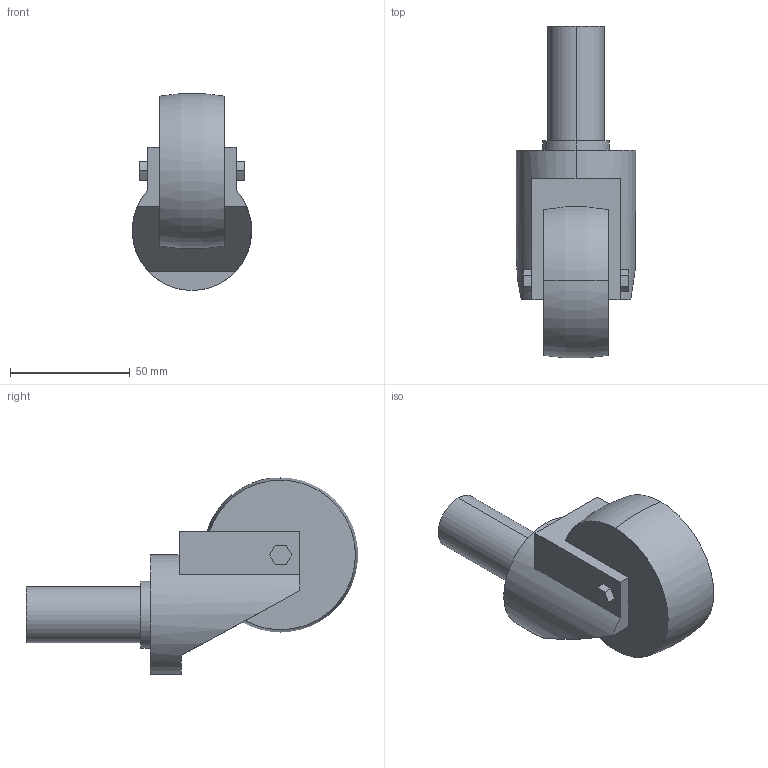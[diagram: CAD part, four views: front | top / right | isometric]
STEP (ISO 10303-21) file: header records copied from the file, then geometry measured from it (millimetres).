
FILE_DESCRIPTION (( 'STEP AP214' ), '1' );
FILE_NAME ('SGR65 CTP.step', '2024-02-15T04:36:13', ( 'catia' ), ( 'HP Inc.' ), 'SwSTEP 2.0', 'SolidWorks 2021', '' );
FILE_SCHEMA (( 'AUTOMOTIVE_DESIGN' ));
Length unit declared in the file: millimetre
Products named in the file (1): SGR65 CTP
Bounding box: 50 x 138.86 x 82.36 mm (x, y, z)
Volume: 183530.2 mm3; surface area: 23808 mm2
Topology: 1 solids, 1 shells, 36 faces, 90 edges, 60 vertices
Faces by surface type: plane 27, cylinder 6, torus 3
Entity records: 1128 total; most frequent: CARTESIAN_POINT 213, DIRECTION 184, ORIENTED_EDGE 180, EDGE_CURVE 90, LINE 62, VECTOR 62, AXIS2_PLACEMENT_3D 61, VERTEX_POINT 60
